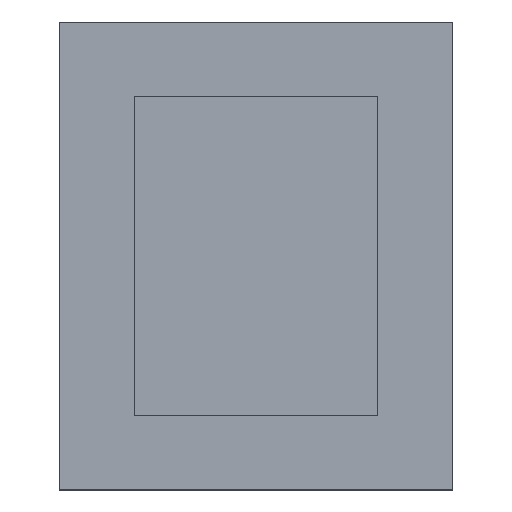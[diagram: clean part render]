
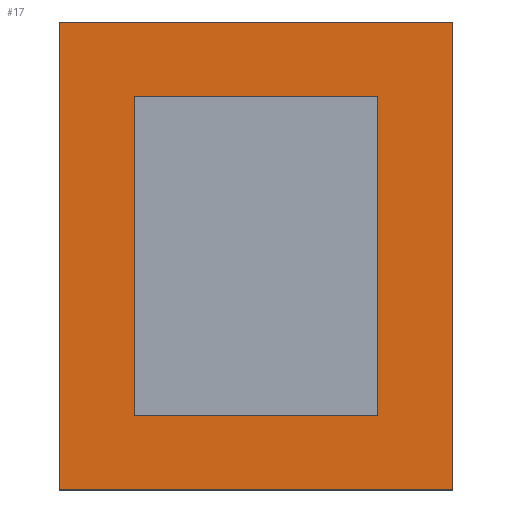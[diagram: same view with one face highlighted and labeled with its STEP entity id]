
A CAD part, top view. The second image highlights one B-rep face of the part: STEP entity #17.
In plain terms, the highlighted planar face has unit normal (0, 0, 1).
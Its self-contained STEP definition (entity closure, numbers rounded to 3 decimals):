
#17 = ADVANCED_FACE('',(#18,#52),#86,.T.);
#18 = FACE_BOUND('',#19,.T.);
#19 = EDGE_LOOP('',(#20,#30,#38,#46));
#20 = ORIENTED_EDGE('',*,*,#21,.F.);
#21 = EDGE_CURVE('',#22,#24,#26,.T.);
#22 = VERTEX_POINT('',#23);
#23 = CARTESIAN_POINT('',(-10.51,-0.11,4.4));
#24 = VERTEX_POINT('',#25);
#25 = CARTESIAN_POINT('',(-10.51,24.89,4.4));
#26 = LINE('',#27,#28);
#27 = CARTESIAN_POINT('',(-10.51,-0.11,4.4));
#28 = VECTOR('',#29,1.);
#29 = DIRECTION('',(0.,1.,0.));
#30 = ORIENTED_EDGE('',*,*,#31,.T.);
#31 = EDGE_CURVE('',#22,#32,#34,.T.);
#32 = VERTEX_POINT('',#33);
#33 = CARTESIAN_POINT('',(10.49,-0.11,4.4));
#34 = LINE('',#35,#36);
#35 = CARTESIAN_POINT('',(-10.51,-0.11,4.4));
#36 = VECTOR('',#37,1.);
#37 = DIRECTION('',(1.,0.,0.));
#38 = ORIENTED_EDGE('',*,*,#39,.T.);
#39 = EDGE_CURVE('',#32,#40,#42,.T.);
#40 = VERTEX_POINT('',#41);
#41 = CARTESIAN_POINT('',(10.49,24.89,4.4));
#42 = LINE('',#43,#44);
#43 = CARTESIAN_POINT('',(10.49,-0.11,4.4));
#44 = VECTOR('',#45,1.);
#45 = DIRECTION('',(0.,1.,0.));
#46 = ORIENTED_EDGE('',*,*,#47,.F.);
#47 = EDGE_CURVE('',#24,#40,#48,.T.);
#48 = LINE('',#49,#50);
#49 = CARTESIAN_POINT('',(-10.51,24.89,4.4));
#50 = VECTOR('',#51,1.);
#51 = DIRECTION('',(1.,0.,0.));
#52 = FACE_BOUND('',#53,.T.);
#53 = EDGE_LOOP('',(#54,#64,#72,#80));
#54 = ORIENTED_EDGE('',*,*,#55,.T.);
#55 = EDGE_CURVE('',#56,#58,#60,.T.);
#56 = VERTEX_POINT('',#57);
#57 = CARTESIAN_POINT('',(-6.51,3.89,4.4));
#58 = VERTEX_POINT('',#59);
#59 = CARTESIAN_POINT('',(-6.51,20.89,4.4));
#60 = LINE('',#61,#62);
#61 = CARTESIAN_POINT('',(-6.51,3.89,4.4));
#62 = VECTOR('',#63,1.);
#63 = DIRECTION('',(0.,1.,0.));
#64 = ORIENTED_EDGE('',*,*,#65,.T.);
#65 = EDGE_CURVE('',#58,#66,#68,.T.);
#66 = VERTEX_POINT('',#67);
#67 = CARTESIAN_POINT('',(6.49,20.89,4.4));
#68 = LINE('',#69,#70);
#69 = CARTESIAN_POINT('',(-6.51,20.89,4.4));
#70 = VECTOR('',#71,1.);
#71 = DIRECTION('',(1.,0.,0.));
#72 = ORIENTED_EDGE('',*,*,#73,.F.);
#73 = EDGE_CURVE('',#74,#66,#76,.T.);
#74 = VERTEX_POINT('',#75);
#75 = CARTESIAN_POINT('',(6.49,3.89,4.4));
#76 = LINE('',#77,#78);
#77 = CARTESIAN_POINT('',(6.49,3.89,4.4));
#78 = VECTOR('',#79,1.);
#79 = DIRECTION('',(0.,1.,0.));
#80 = ORIENTED_EDGE('',*,*,#81,.F.);
#81 = EDGE_CURVE('',#56,#74,#82,.T.);
#82 = LINE('',#83,#84);
#83 = CARTESIAN_POINT('',(-6.51,3.89,4.4));
#84 = VECTOR('',#85,1.);
#85 = DIRECTION('',(1.,0.,0.));
#86 = PLANE('',#87);
#87 = AXIS2_PLACEMENT_3D('',#88,#89,#90);
#88 = CARTESIAN_POINT('',(-10.51,-0.11,4.4));
#89 = DIRECTION('',(0.,0.,1.));
#90 = DIRECTION('',(1.,0.,0.));
